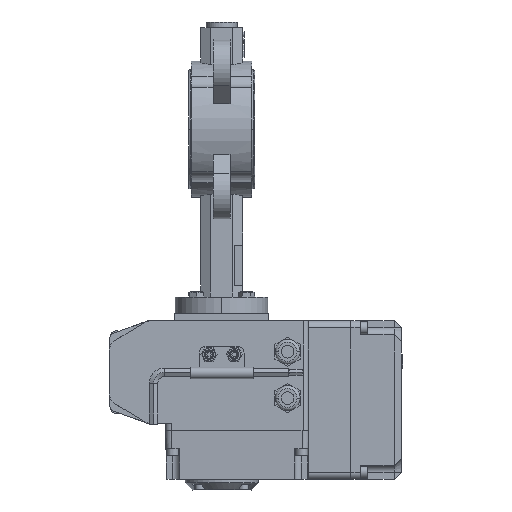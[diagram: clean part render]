
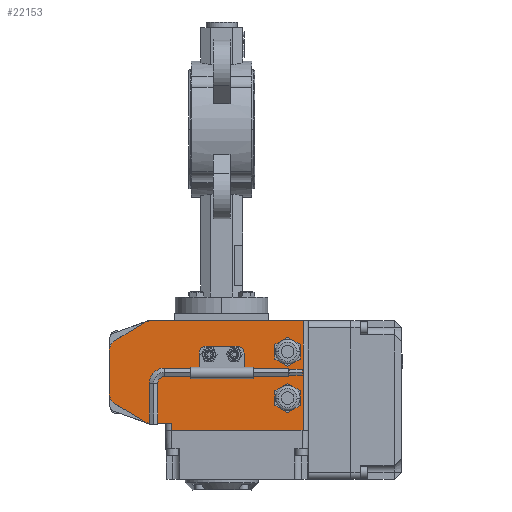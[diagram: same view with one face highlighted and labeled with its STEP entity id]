
A CAD part, left-side view. The second image highlights one B-rep face of the part: STEP entity #22153.
In plain terms, the highlighted planar face has unit normal (-1, 0, 0) as drawn and (0, 0, 1) by its records, which use the part's own axes.
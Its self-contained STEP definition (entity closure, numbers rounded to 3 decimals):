
#17820=CARTESIAN_POINT('',(61.749,28.5,0.));
#17821=DIRECTION('',(0.,0.,1.));
#17822=DIRECTION('',(0.521,0.853,0.));
#17823=AXIS2_PLACEMENT_3D('',#17820,#17821,#17822);
#17825=DIRECTION('',(-0.853,0.521,0.));
#17826=VECTOR('',#17825,24.905);
#17827=CARTESIAN_POINT('',(87.172,22.34,0.));
#17828=LINE('',#17827,#17826);
#17829=CARTESIAN_POINT('',(83.,15.513,0.));
#17830=DIRECTION('',(0.,0.,1.));
#17831=DIRECTION('',(1.,0.,0.));
#17832=AXIS2_PLACEMENT_3D('',#17829,#17830,#17831);
#17834=DIRECTION('',(0.,1.,0.));
#17835=VECTOR('',#17834,31.027);
#17836=CARTESIAN_POINT('',(91.,-15.513,0.));
#17837=LINE('',#17836,#17835);
#17838=CARTESIAN_POINT('',(83.,-15.513,0.));
#17839=DIRECTION('',(0.,0.,1.));
#17840=DIRECTION('',(0.521,-0.853,0.));
#17841=AXIS2_PLACEMENT_3D('',#17838,#17839,#17840);
#17843=DIRECTION('',(0.853,0.521,0.));
#17844=VECTOR('',#17843,24.905);
#17845=CARTESIAN_POINT('',(65.921,-35.326,0.));
#17846=LINE('',#17845,#17844);
#17847=CARTESIAN_POINT('',(61.749,-28.5,0.));
#17848=DIRECTION('',(0.,0.,1.));
#17849=DIRECTION('',(0.,-1.,0.));
#17850=AXIS2_PLACEMENT_3D('',#17847,#17848,#17849);
#17852=DIRECTION('',(1.,0.,0.));
#17853=VECTOR('',#17852,108.749);
#17854=CARTESIAN_POINT('',(-47.,-36.5,0.));
#17855=LINE('',#17854,#17853);
#17856=DIRECTION('',(-1.,0.,0.));
#17857=VECTOR('',#17856,94.);
#17858=CARTESIAN_POINT('',(47.,41.5,0.));
#17859=LINE('',#17858,#17857);
#17860=DIRECTION('',(0.,1.,0.));
#17861=VECTOR('',#17860,5.);
#17862=CARTESIAN_POINT('',(47.,36.5,0.));
#17863=LINE('',#17862,#17861);
#17864=DIRECTION('',(0.866,-0.5,0.));
#17865=VECTOR('',#17864,10.392);
#17866=CARTESIAN_POINT('',(-45.,-19.696,0.));
#17867=LINE('',#17866,#17865);
#17868=DIRECTION('',(0.866,0.5,0.));
#17869=VECTOR('',#17868,10.392);
#17870=CARTESIAN_POINT('',(-36.,-24.892,0.));
#17871=LINE('',#17870,#17869);
#17872=DIRECTION('',(0.,1.,0.));
#17873=VECTOR('',#17872,10.392);
#17874=CARTESIAN_POINT('',(-27.,-19.696,0.));
#17875=LINE('',#17874,#17873);
#17876=DIRECTION('',(-0.866,0.5,0.));
#17877=VECTOR('',#17876,10.392);
#17878=CARTESIAN_POINT('',(-27.,-9.304,0.));
#17879=LINE('',#17878,#17877);
#17880=DIRECTION('',(-0.866,-0.5,0.));
#17881=VECTOR('',#17880,10.392);
#17882=CARTESIAN_POINT('',(-36.,-4.108,0.));
#17883=LINE('',#17882,#17881);
#17884=DIRECTION('',(0.,-1.,0.));
#17885=VECTOR('',#17884,10.392);
#17886=CARTESIAN_POINT('',(-45.,-9.304,0.));
#17887=LINE('',#17886,#17885);
#17888=DIRECTION('',(0.866,-0.5,0.));
#17889=VECTOR('',#17888,10.392);
#17890=CARTESIAN_POINT('',(-45.,13.304,0.));
#17891=LINE('',#17890,#17889);
#17892=DIRECTION('',(0.866,0.5,0.));
#17893=VECTOR('',#17892,10.392);
#17894=CARTESIAN_POINT('',(-36.,8.108,0.));
#17895=LINE('',#17894,#17893);
#17896=DIRECTION('',(0.,1.,0.));
#17897=VECTOR('',#17896,10.392);
#17898=CARTESIAN_POINT('',(-27.,13.304,0.));
#17899=LINE('',#17898,#17897);
#17900=DIRECTION('',(-0.866,0.5,0.));
#17901=VECTOR('',#17900,10.392);
#17902=CARTESIAN_POINT('',(-27.,23.696,0.));
#17903=LINE('',#17902,#17901);
#17904=DIRECTION('',(-0.866,-0.5,0.));
#17905=VECTOR('',#17904,10.392);
#17906=CARTESIAN_POINT('',(-36.,28.892,0.));
#17907=LINE('',#17906,#17905);
#17908=DIRECTION('',(0.,-1.,0.));
#17909=VECTOR('',#17908,10.392);
#17910=CARTESIAN_POINT('',(-45.,23.696,0.));
#17911=LINE('',#17910,#17909);
#17912=CARTESIAN_POINT('',(2.,-12.5,0.));
#17913=DIRECTION('',(0.,0.,1.));
#17914=DIRECTION('',(1.,0.,0.));
#17915=AXIS2_PLACEMENT_3D('',#17912,#17913,#17914);
#17917=CARTESIAN_POINT('',(2.,-12.5,0.));
#17918=DIRECTION('',(0.,0.,1.));
#17919=DIRECTION('',(-1.,0.,0.));
#17920=AXIS2_PLACEMENT_3D('',#17917,#17918,#17919);
#17922=CARTESIAN_POINT('',(20.,-12.5,0.));
#17923=DIRECTION('',(0.,0.,1.));
#17924=DIRECTION('',(1.,0.,0.));
#17925=AXIS2_PLACEMENT_3D('',#17922,#17923,#17924);
#17927=CARTESIAN_POINT('',(20.,-12.5,0.));
#17928=DIRECTION('',(0.,0.,1.));
#17929=DIRECTION('',(-1.,0.,0.));
#17930=AXIS2_PLACEMENT_3D('',#17927,#17928,#17929);
#18406=DIRECTION('',(-1.,0.,0.));
#18407=VECTOR('',#18406,14.749);
#18408=CARTESIAN_POINT('',(61.749,36.5,0.));
#18409=LINE('',#18408,#18407);
#18487=DIRECTION('',(0.,-1.,0.));
#18488=VECTOR('',#18487,78.);
#18489=CARTESIAN_POINT('',(-47.,41.5,0.));
#18490=LINE('',#18489,#18488);
#21094=CARTESIAN_POINT('',(-47.,-36.5,0.));
#21096=VERTEX_POINT('',#21094);
#21099=CARTESIAN_POINT('',(-47.,41.5,0.));
#21101=VERTEX_POINT('',#21099);
#21110=CARTESIAN_POINT('',(47.,41.5,0.));
#21112=VERTEX_POINT('',#21110);
#21116=CARTESIAN_POINT('',(47.,36.5,0.));
#21117=VERTEX_POINT('',#21116);
#21126=CARTESIAN_POINT('',(65.921,35.326,0.));
#21127=CARTESIAN_POINT('',(61.749,36.5,0.));
#21128=VERTEX_POINT('',#21126);
#21129=VERTEX_POINT('',#21127);
#21130=CARTESIAN_POINT('',(91.,15.513,0.));
#21131=CARTESIAN_POINT('',(87.172,22.34,0.));
#21132=VERTEX_POINT('',#21130);
#21133=VERTEX_POINT('',#21131);
#21134=CARTESIAN_POINT('',(87.172,-22.34,0.));
#21135=CARTESIAN_POINT('',(91.,-15.513,0.));
#21136=VERTEX_POINT('',#21134);
#21137=VERTEX_POINT('',#21135);
#21138=CARTESIAN_POINT('',(61.749,-36.5,0.));
#21139=CARTESIAN_POINT('',(65.921,-35.326,0.));
#21140=VERTEX_POINT('',#21138);
#21141=VERTEX_POINT('',#21139);
#21830=CARTESIAN_POINT('',(-45.,-19.696,0.));
#21831=CARTESIAN_POINT('',(-36.,-24.892,0.));
#21832=VERTEX_POINT('',#21830);
#21833=VERTEX_POINT('',#21831);
#21834=CARTESIAN_POINT('',(-27.,-19.696,0.));
#21835=VERTEX_POINT('',#21834);
#21836=CARTESIAN_POINT('',(-27.,-9.304,0.));
#21837=VERTEX_POINT('',#21836);
#21838=CARTESIAN_POINT('',(-36.,-4.108,0.));
#21839=VERTEX_POINT('',#21838);
#21840=CARTESIAN_POINT('',(-45.,-9.304,0.));
#21841=VERTEX_POINT('',#21840);
#21914=CARTESIAN_POINT('',(-45.,13.304,0.));
#21915=VERTEX_POINT('',#21914);
#21916=CARTESIAN_POINT('',(-36.,8.108,0.));
#21917=VERTEX_POINT('',#21916);
#21918=CARTESIAN_POINT('',(-27.,13.304,0.));
#21919=VERTEX_POINT('',#21918);
#21920=CARTESIAN_POINT('',(-27.,23.696,0.));
#21921=VERTEX_POINT('',#21920);
#21922=CARTESIAN_POINT('',(-36.,28.892,0.));
#21923=VERTEX_POINT('',#21922);
#21924=CARTESIAN_POINT('',(-45.,23.696,0.));
#21925=VERTEX_POINT('',#21924);
#21994=CARTESIAN_POINT('',(5.,-12.5,0.));
#21995=CARTESIAN_POINT('',(-1.,-12.5,0.));
#21996=VERTEX_POINT('',#21994);
#21997=VERTEX_POINT('',#21995);
#21998=CARTESIAN_POINT('',(23.,-12.5,0.));
#21999=CARTESIAN_POINT('',(17.,-12.5,0.));
#22000=VERTEX_POINT('',#21998);
#22001=VERTEX_POINT('',#21999);
#22082=CARTESIAN_POINT('',(0.,0.,0.));
#22083=DIRECTION('',(0.,0.,1.));
#22084=DIRECTION('',(1.,0.,0.));
#22085=AXIS2_PLACEMENT_3D('',#22082,#22083,#22084);
#22086=PLANE('',#22085);
#22088=ORIENTED_EDGE('',*,*,#22087,.F.);
#22090=ORIENTED_EDGE('',*,*,#22089,.F.);
#22092=ORIENTED_EDGE('',*,*,#22091,.F.);
#22094=ORIENTED_EDGE('',*,*,#22093,.F.);
#22096=ORIENTED_EDGE('',*,*,#22095,.F.);
#22098=ORIENTED_EDGE('',*,*,#22097,.F.);
#22100=ORIENTED_EDGE('',*,*,#22099,.F.);
#22102=ORIENTED_EDGE('',*,*,#22101,.F.);
#22104=ORIENTED_EDGE('',*,*,#22103,.F.);
#22106=ORIENTED_EDGE('',*,*,#22105,.F.);
#22108=ORIENTED_EDGE('',*,*,#22107,.F.);
#22110=ORIENTED_EDGE('',*,*,#22109,.F.);
#22111=EDGE_LOOP('',(#22088,#22090,#22092,#22094,#22096,#22098,#22100,#22102,
#22104,#22106,#22108,#22110));
#22112=FACE_OUTER_BOUND('',#22111,.F.);
#22114=ORIENTED_EDGE('',*,*,#22113,.T.);
#22116=ORIENTED_EDGE('',*,*,#22115,.T.);
#22118=ORIENTED_EDGE('',*,*,#22117,.T.);
#22120=ORIENTED_EDGE('',*,*,#22119,.T.);
#22122=ORIENTED_EDGE('',*,*,#22121,.T.);
#22124=ORIENTED_EDGE('',*,*,#22123,.T.);
#22125=EDGE_LOOP('',(#22114,#22116,#22118,#22120,#22122,#22124));
#22126=FACE_BOUND('',#22125,.F.);
#22128=ORIENTED_EDGE('',*,*,#22127,.T.);
#22130=ORIENTED_EDGE('',*,*,#22129,.T.);
#22132=ORIENTED_EDGE('',*,*,#22131,.T.);
#22134=ORIENTED_EDGE('',*,*,#22133,.T.);
#22136=ORIENTED_EDGE('',*,*,#22135,.T.);
#22138=ORIENTED_EDGE('',*,*,#22137,.T.);
#22139=EDGE_LOOP('',(#22128,#22130,#22132,#22134,#22136,#22138));
#22140=FACE_BOUND('',#22139,.F.);
#22142=ORIENTED_EDGE('',*,*,#22141,.T.);
#22144=ORIENTED_EDGE('',*,*,#22143,.T.);
#22145=EDGE_LOOP('',(#22142,#22144));
#22146=FACE_BOUND('',#22145,.F.);
#22148=ORIENTED_EDGE('',*,*,#22147,.T.);
#22150=ORIENTED_EDGE('',*,*,#22149,.T.);
#22151=EDGE_LOOP('',(#22148,#22150));
#22152=FACE_BOUND('',#22151,.F.);
#22153=ADVANCED_FACE('',(#22112,#22126,#22140,#22146,#22152),#22086,.T.);
#17824=CIRCLE('',#17823,8.);
#17833=CIRCLE('',#17832,8.);
#17842=CIRCLE('',#17841,8.);
#17851=CIRCLE('',#17850,8.);
#17916=CIRCLE('',#17915,3.);
#17921=CIRCLE('',#17920,3.);
#17926=CIRCLE('',#17925,3.);
#17931=CIRCLE('',#17930,3.);
#22087=EDGE_CURVE('',#21128,#21129,#17824,.T.);
#22089=EDGE_CURVE('',#21133,#21128,#17828,.T.);
#22091=EDGE_CURVE('',#21132,#21133,#17833,.T.);
#22093=EDGE_CURVE('',#21137,#21132,#17837,.T.);
#22095=EDGE_CURVE('',#21136,#21137,#17842,.T.);
#22097=EDGE_CURVE('',#21141,#21136,#17846,.T.);
#22099=EDGE_CURVE('',#21140,#21141,#17851,.T.);
#22101=EDGE_CURVE('',#21096,#21140,#17855,.T.);
#22103=EDGE_CURVE('',#21101,#21096,#18490,.T.);
#22105=EDGE_CURVE('',#21112,#21101,#17859,.T.);
#22107=EDGE_CURVE('',#21117,#21112,#17863,.T.);
#22109=EDGE_CURVE('',#21129,#21117,#18409,.T.);
#22113=EDGE_CURVE('',#21832,#21833,#17867,.T.);
#22115=EDGE_CURVE('',#21833,#21835,#17871,.T.);
#22117=EDGE_CURVE('',#21835,#21837,#17875,.T.);
#22119=EDGE_CURVE('',#21837,#21839,#17879,.T.);
#22121=EDGE_CURVE('',#21839,#21841,#17883,.T.);
#22123=EDGE_CURVE('',#21841,#21832,#17887,.T.);
#22127=EDGE_CURVE('',#21915,#21917,#17891,.T.);
#22129=EDGE_CURVE('',#21917,#21919,#17895,.T.);
#22131=EDGE_CURVE('',#21919,#21921,#17899,.T.);
#22133=EDGE_CURVE('',#21921,#21923,#17903,.T.);
#22135=EDGE_CURVE('',#21923,#21925,#17907,.T.);
#22137=EDGE_CURVE('',#21925,#21915,#17911,.T.);
#22141=EDGE_CURVE('',#21996,#21997,#17916,.T.);
#22143=EDGE_CURVE('',#21997,#21996,#17921,.T.);
#22147=EDGE_CURVE('',#22000,#22001,#17926,.T.);
#22149=EDGE_CURVE('',#22001,#22000,#17931,.T.);
